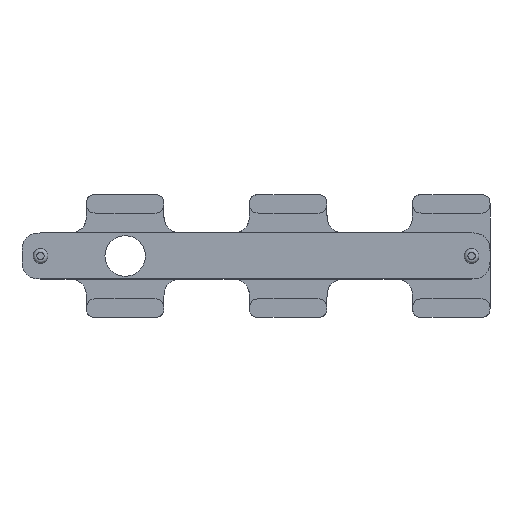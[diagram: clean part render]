
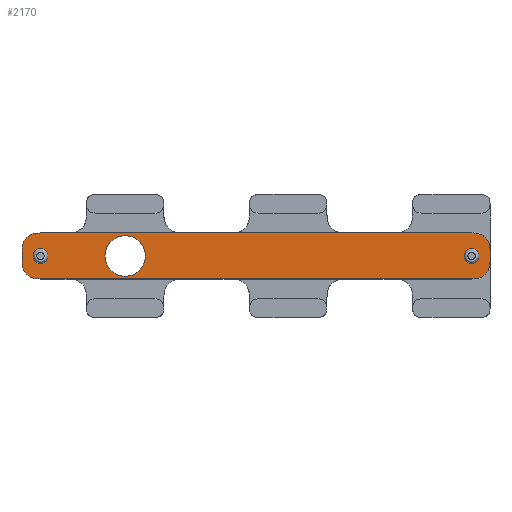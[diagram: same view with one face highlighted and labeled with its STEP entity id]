
A CAD part, top view. The second image highlights one B-rep face of the part: STEP entity #2170.
In plain terms, the highlighted planar face has unit normal (0, 0, 1).
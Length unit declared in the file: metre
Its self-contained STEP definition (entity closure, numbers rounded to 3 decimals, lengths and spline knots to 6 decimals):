
#60=CIRCLE('',#2299,0.0055);
#68=CIRCLE('',#2323,0.002);
#69=CIRCLE('',#2324,0.002);
#118=B_SPLINE_CURVE_WITH_KNOTS('',3,(#3395,#3396,#3397,#3398,#3399,#3400,
#3401,#3402,#3403,#3404,#3405,#3406,#3407,#3408,#3409,#3410,#3411,#3412,
#3413,#3414),.UNSPECIFIED.,.F.,.F.,(4,1,1,1,1,1,1,1,1,1,1,1,1,1,1,1,1,4),
(0.,0.0625,0.125,0.140625,0.15625,0.1875,0.25,0.3125,0.375,0.5,0.625,0.75,
0.8125,0.875,0.890625,0.90625,0.9375,1.),.UNSPECIFIED.);
#119=B_SPLINE_CURVE_WITH_KNOTS('',3,(#3415,#3416,#3417,#3418,#3419,#3420,
#3421,#3422,#3423,#3424,#3425,#3426,#3427,#3428,#3429,#3430,#3431,#3432,
#3433,#3434),.UNSPECIFIED.,.F.,.F.,(4,1,1,1,1,1,1,1,1,1,1,1,1,1,1,1,1,4),
(0.,0.0625,0.125,0.140625,0.15625,0.1875,0.25,0.3125,0.375,0.5,0.625,0.75,
0.8125,0.875,0.890625,0.90625,0.9375,1.),.UNSPECIFIED.);
#120=B_SPLINE_CURVE_WITH_KNOTS('',3,(#3435,#3436,#3437,#3438,#3439,#3440,
#3441,#3442,#3443,#3444,#3445,#3446,#3447,#3448,#3449,#3450,#3451,#3452,
#3453),.UNSPECIFIED.,.F.,.F.,(4,1,1,1,1,1,1,1,1,1,1,1,1,1,1,1,4),(0.,0.0625,
0.125,0.140625,0.15625,0.1875,0.25,0.375,0.5,0.625,0.75,0.8125,0.875,0.890625,
0.90625,0.9375,1.),.UNSPECIFIED.);
#121=B_SPLINE_CURVE_WITH_KNOTS('',3,(#3454,#3455,#3456,#3457,#3458,#3459,
#3460,#3461,#3462,#3463,#3464,#3465,#3466,#3467,#3468,#3469,#3470,#3471,
#3472),.UNSPECIFIED.,.F.,.F.,(4,1,1,1,1,1,1,1,1,1,1,1,1,1,1,1,4),(0.,0.0625,
0.125,0.140625,0.15625,0.1875,0.25,0.375,0.5,0.625,0.75,0.8125,0.875,0.890625,
0.90625,0.9375,1.),.UNSPECIFIED.);
#410=ORIENTED_EDGE('',*,*,#1043,.T.);
#411=ORIENTED_EDGE('',*,*,#1064,.T.);
#412=ORIENTED_EDGE('',*,*,#919,.F.);
#413=ORIENTED_EDGE('',*,*,#1065,.T.);
#414=ORIENTED_EDGE('',*,*,#1054,.F.);
#415=ORIENTED_EDGE('',*,*,#1066,.T.);
#416=ORIENTED_EDGE('',*,*,#1060,.T.);
#417=ORIENTED_EDGE('',*,*,#1067,.T.);
#418=ORIENTED_EDGE('',*,*,#1068,.F.);
#419=ORIENTED_EDGE('',*,*,#942,.F.);
#420=ORIENTED_EDGE('',*,*,#1069,.F.);
#919=EDGE_CURVE('',#1257,#1258,#1471,.T.);
#942=EDGE_CURVE('',#1280,#1280,#60,.T.);
#1043=EDGE_CURVE('',#1368,#1367,#1553,.T.);
#1054=EDGE_CURVE('',#1375,#1376,#1557,.T.);
#1060=EDGE_CURVE('',#1380,#1379,#1559,.T.);
#1064=EDGE_CURVE('',#1367,#1258,#118,.T.);
#1065=EDGE_CURVE('',#1257,#1376,#119,.T.);
#1066=EDGE_CURVE('',#1375,#1380,#120,.T.);
#1067=EDGE_CURVE('',#1379,#1368,#121,.T.);
#1068=EDGE_CURVE('',#1382,#1382,#68,.T.);
#1069=EDGE_CURVE('',#1383,#1383,#69,.T.);
#1257=VERTEX_POINT('',#2792);
#1258=VERTEX_POINT('',#2794);
#1280=VERTEX_POINT('',#2881);
#1367=VERTEX_POINT('',#3320);
#1368=VERTEX_POINT('',#3322);
#1375=VERTEX_POINT('',#3361);
#1376=VERTEX_POINT('',#3363);
#1379=VERTEX_POINT('',#3384);
#1380=VERTEX_POINT('',#3386);
#1382=VERTEX_POINT('',#3474);
#1383=VERTEX_POINT('',#3476);
#1471=LINE('',#2793,#1634);
#1553=LINE('',#3321,#1716);
#1557=LINE('',#3362,#1720);
#1559=LINE('',#3385,#1722);
#1634=VECTOR('',#2406,1.);
#1716=VECTOR('',#2536,1.);
#1720=VECTOR('',#2542,1.);
#1722=VECTOR('',#2546,1.);
#1810=EDGE_LOOP('',(#410,#411,#412,#413,#414,#415,#416,#417));
#1811=EDGE_LOOP('',(#418));
#1812=EDGE_LOOP('',(#419));
#1813=EDGE_LOOP('',(#420));
#1949=FACE_BOUND('',#1810,.T.);
#1950=FACE_BOUND('',#1811,.T.);
#1951=FACE_BOUND('',#1812,.T.);
#1952=FACE_BOUND('',#1813,.T.);
#2086=PLANE('',#2322);
#2170=ADVANCED_FACE('',(#1949,#1950,#1951,#1952),#2086,.T.);
#2299=AXIS2_PLACEMENT_3D('',#2880,#2430,#2431);
#2322=AXIS2_PLACEMENT_3D('',#3394,#2549,#2550);
#2323=AXIS2_PLACEMENT_3D('',#3473,#2551,#2552);
#2324=AXIS2_PLACEMENT_3D('',#3475,#2553,#2554);
#2406=DIRECTION('',(0.,-1.,0.));
#2430=DIRECTION('',(0.,0.,1.));
#2431=DIRECTION('',(1.,0.,0.));
#2536=DIRECTION('',(1.,0.,0.));
#2542=DIRECTION('',(1.,0.,0.));
#2546=DIRECTION('',(0.,-1.,0.));
#2549=DIRECTION('',(0.,0.,1.));
#2550=DIRECTION('',(1.,0.,0.));
#2551=DIRECTION('',(0.,0.,1.));
#2552=DIRECTION('',(1.,0.,0.));
#2553=DIRECTION('',(0.,0.,1.));
#2554=DIRECTION('',(1.,0.,0.));
#2792=CARTESIAN_POINT('',(0.0635,-0.025,0.01));
#2793=CARTESIAN_POINT('',(0.0635,-0.02625,0.01));
#2794=CARTESIAN_POINT('',(0.0635,-0.0275,0.01));
#2880=CARTESIAN_POINT('',(-0.0355,-0.02625,0.01));
#2881=CARTESIAN_POINT('',(-0.03,-0.02625,0.01));
#3320=CARTESIAN_POINT('',(0.0585,-0.0325,0.01));
#3321=CARTESIAN_POINT('',(-0.05475,-0.0325,0.01));
#3322=CARTESIAN_POINT('',(-0.0585,-0.0325,0.01));
#3361=CARTESIAN_POINT('',(-0.0585,-0.02,0.01));
#3362=CARTESIAN_POINT('',(-0.05475,-0.02,0.01));
#3363=CARTESIAN_POINT('',(0.0585,-0.02,0.01));
#3384=CARTESIAN_POINT('',(-0.0635,-0.0275,0.01));
#3385=CARTESIAN_POINT('',(-0.0635,-0.02625,0.01));
#3386=CARTESIAN_POINT('',(-0.0635,-0.025,0.01));
#3394=CARTESIAN_POINT('',(0.,-0.02625,0.01));
#3395=CARTESIAN_POINT('',(0.0585,-0.0325,0.01));
#3396=CARTESIAN_POINT('',(0.058711,-0.0325,0.01));
#3397=CARTESIAN_POINT('',(0.059092,-0.032494,0.01));
#3398=CARTESIAN_POINT('',(0.059453,-0.032468,0.01));
#3399=CARTESIAN_POINT('',(0.05963,-0.032448,0.01));
#3400=CARTESIAN_POINT('',(0.059805,-0.032424,0.01));
#3401=CARTESIAN_POINT('',(0.060098,-0.032373,0.01));
#3402=CARTESIAN_POINT('',(0.0605,-0.032273,0.01));
#3403=CARTESIAN_POINT('',(0.060987,-0.032099,0.01));
#3404=CARTESIAN_POINT('',(0.061623,-0.031785,0.01));
#3405=CARTESIAN_POINT('',(0.062283,-0.03128,0.01));
#3406=CARTESIAN_POINT('',(0.062883,-0.030488,0.01));
#3407=CARTESIAN_POINT('',(0.063221,-0.029708,0.01));
#3408=CARTESIAN_POINT('',(0.063392,-0.029024,0.01));
#3409=CARTESIAN_POINT('',(0.063447,-0.028666,0.01));
#3410=CARTESIAN_POINT('',(0.063474,-0.028384,0.01));
#3411=CARTESIAN_POINT('',(0.063483,-0.028264,0.01));
#3412=CARTESIAN_POINT('',(0.063496,-0.028,0.01));
#3413=CARTESIAN_POINT('',(0.0635,-0.027717,0.01));
#3414=CARTESIAN_POINT('',(0.0635,-0.0275,0.01));
#3415=CARTESIAN_POINT('',(0.0635,-0.025,0.01));
#3416=CARTESIAN_POINT('',(0.0635,-0.024789,0.01));
#3417=CARTESIAN_POINT('',(0.063494,-0.024408,0.01));
#3418=CARTESIAN_POINT('',(0.063468,-0.024047,0.01));
#3419=CARTESIAN_POINT('',(0.063448,-0.02387,0.01));
#3420=CARTESIAN_POINT('',(0.063424,-0.023695,0.01));
#3421=CARTESIAN_POINT('',(0.063373,-0.023402,0.01));
#3422=CARTESIAN_POINT('',(0.063273,-0.023,0.01));
#3423=CARTESIAN_POINT('',(0.063099,-0.022513,0.01));
#3424=CARTESIAN_POINT('',(0.062785,-0.021877,0.01));
#3425=CARTESIAN_POINT('',(0.06228,-0.021217,0.01));
#3426=CARTESIAN_POINT('',(0.061488,-0.020617,0.01));
#3427=CARTESIAN_POINT('',(0.060708,-0.020279,0.01));
#3428=CARTESIAN_POINT('',(0.060024,-0.020108,0.01));
#3429=CARTESIAN_POINT('',(0.059666,-0.020053,0.01));
#3430=CARTESIAN_POINT('',(0.059384,-0.020026,0.01));
#3431=CARTESIAN_POINT('',(0.059264,-0.020017,0.01));
#3432=CARTESIAN_POINT('',(0.059,-0.020004,0.01));
#3433=CARTESIAN_POINT('',(0.058717,-0.02,0.01));
#3434=CARTESIAN_POINT('',(0.0585,-0.02,0.01));
#3435=CARTESIAN_POINT('',(-0.0585,-0.02,0.01));
#3436=CARTESIAN_POINT('',(-0.058712,-0.02,0.01));
#3437=CARTESIAN_POINT('',(-0.059094,-0.020007,0.01));
#3438=CARTESIAN_POINT('',(-0.059458,-0.020032,0.01));
#3439=CARTESIAN_POINT('',(-0.059635,-0.020053,0.01));
#3440=CARTESIAN_POINT('',(-0.059812,-0.020077,0.01));
#3441=CARTESIAN_POINT('',(-0.060107,-0.020129,0.01));
#3442=CARTESIAN_POINT('',(-0.060674,-0.02027,0.01));
#3443=CARTESIAN_POINT('',(-0.061498,-0.020618,0.01));
#3444=CARTESIAN_POINT('',(-0.06229,-0.021227,0.01));
#3445=CARTESIAN_POINT('',(-0.062887,-0.022018,0.01));
#3446=CARTESIAN_POINT('',(-0.063224,-0.022802,0.01));
#3447=CARTESIAN_POINT('',(-0.063394,-0.023485,0.01));
#3448=CARTESIAN_POINT('',(-0.063448,-0.023839,0.01));
#3449=CARTESIAN_POINT('',(-0.063474,-0.024118,0.01));
#3450=CARTESIAN_POINT('',(-0.063483,-0.024238,0.01));
#3451=CARTESIAN_POINT('',(-0.063496,-0.024501,0.01));
#3452=CARTESIAN_POINT('',(-0.0635,-0.024783,0.01));
#3453=CARTESIAN_POINT('',(-0.0635,-0.025,0.01));
#3454=CARTESIAN_POINT('',(-0.0635,-0.0275,0.01));
#3455=CARTESIAN_POINT('',(-0.0635,-0.027712,0.01));
#3456=CARTESIAN_POINT('',(-0.063493,-0.028094,0.01));
#3457=CARTESIAN_POINT('',(-0.063468,-0.028458,0.01));
#3458=CARTESIAN_POINT('',(-0.063447,-0.028635,0.01));
#3459=CARTESIAN_POINT('',(-0.063423,-0.028812,0.01));
#3460=CARTESIAN_POINT('',(-0.063371,-0.029107,0.01));
#3461=CARTESIAN_POINT('',(-0.06323,-0.029674,0.01));
#3462=CARTESIAN_POINT('',(-0.062882,-0.030498,0.01));
#3463=CARTESIAN_POINT('',(-0.062273,-0.03129,0.01));
#3464=CARTESIAN_POINT('',(-0.061482,-0.031887,0.01));
#3465=CARTESIAN_POINT('',(-0.060698,-0.032224,0.01));
#3466=CARTESIAN_POINT('',(-0.060015,-0.032394,0.01));
#3467=CARTESIAN_POINT('',(-0.059661,-0.032448,0.01));
#3468=CARTESIAN_POINT('',(-0.059382,-0.032474,0.01));
#3469=CARTESIAN_POINT('',(-0.059262,-0.032483,0.01));
#3470=CARTESIAN_POINT('',(-0.058999,-0.032496,0.01));
#3471=CARTESIAN_POINT('',(-0.058717,-0.0325,0.01));
#3472=CARTESIAN_POINT('',(-0.0585,-0.0325,0.01));
#3473=CARTESIAN_POINT('',(-0.0585,-0.02625,0.01));
#3474=CARTESIAN_POINT('',(-0.0565,-0.02625,0.01));
#3475=CARTESIAN_POINT('',(0.0585,-0.02625,0.01));
#3476=CARTESIAN_POINT('',(0.0605,-0.02625,0.01));
